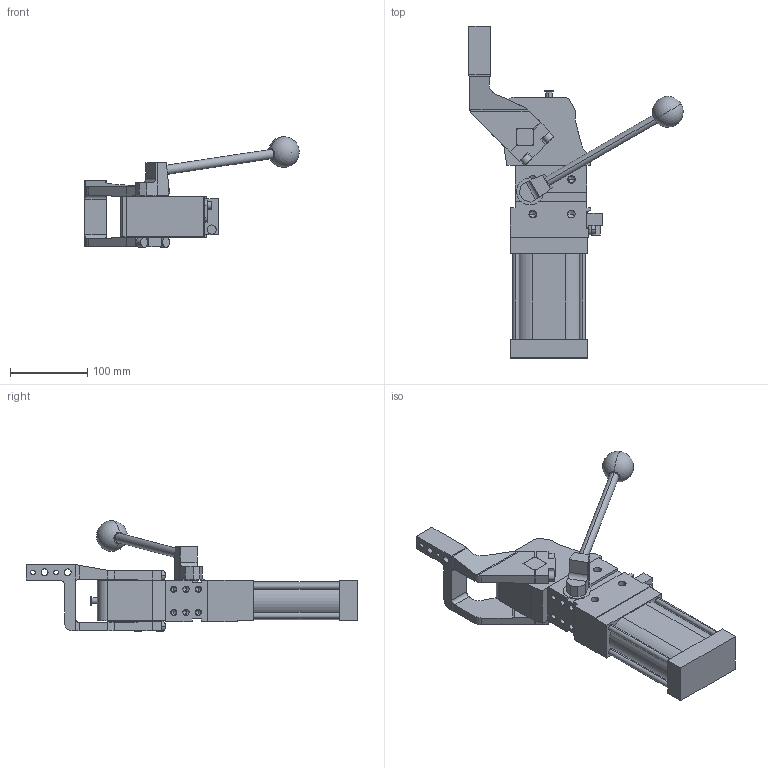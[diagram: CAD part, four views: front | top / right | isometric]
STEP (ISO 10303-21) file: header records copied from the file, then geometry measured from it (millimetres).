
FILE_DESCRIPTION (( 'STEP AP214' ), '1' );
FILE_NAME ('cplm63lah3si1g_107.STEP', '2023-01-26T15:01:20', ( '' ), ( '' ), 'SwSTEP 2.0', 'SolidWorks 2022', '' );
FILE_SCHEMA (( 'AUTOMOTIVE_DESIGN' ));
Length unit declared in the file: millimetre
Products named in the file (5): cplm63lah3si1g_107; blocchetto_VEP_0; leva_dx_offset_45_cpl63; meccanica_cplm_63; comando_manuale_cplm_63
Assembly tree (4 placements, depth 2):
  cplm63lah3si1g_107
    meccanica_cplm_63
    blocchetto_VEP_0
    leva_dx_offset_45_cpl63
    comando_manuale_cplm_63
Bounding box: 278.06 x 430.5 x 143.5 mm (x, y, z)
Volume: 1887764.5 mm3; surface area: 211438.7 mm2
Topology: 4 solids, 4 shells, 432 faces, 1134 edges, 703 vertices
Faces by surface type: plane 219, cylinder 161, cone 50, sphere 2
Entity records: 14577 total; most frequent: CARTESIAN_POINT 2322, DIRECTION 2302, ORIENTED_EDGE 2166, EDGE_CURVE 1083, AXIS2_PLACEMENT_3D 794, LINE 714, VECTOR 714, VERTEX_POINT 700
